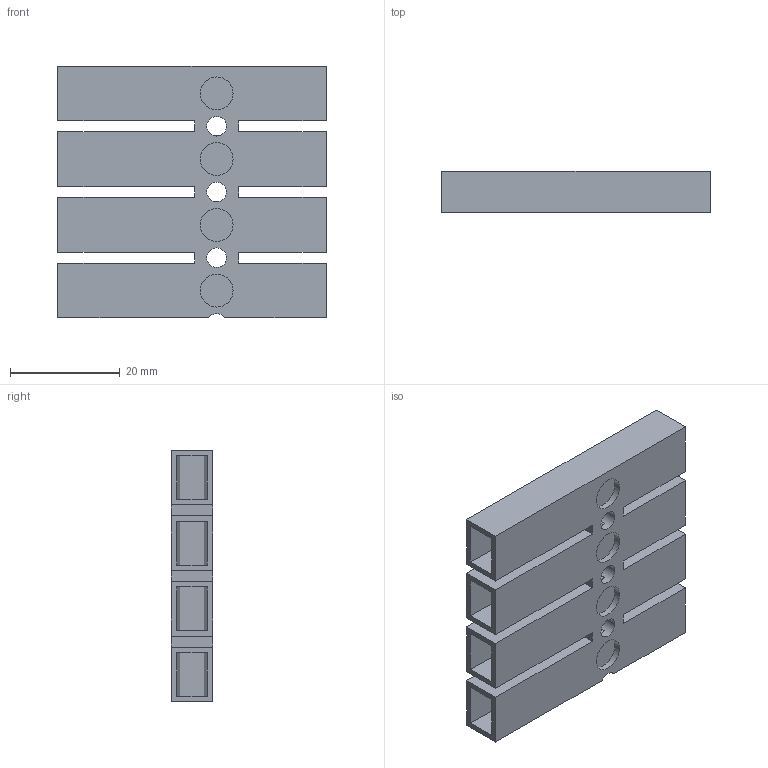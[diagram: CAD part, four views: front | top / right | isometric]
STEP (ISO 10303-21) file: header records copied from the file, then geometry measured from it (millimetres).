
FILE_DESCRIPTION (( 'STEP AP203' ), '1' );
FILE_NAME ('440-PA-04.STEP', '2019-01-29T01:21:37', ( '' ), ( '' ), 'SwSTEP 2.0', 'SolidWorks 2016', '' );
FILE_SCHEMA (( 'CONFIG_CONTROL_DESIGN' ));
Length unit declared in the file: millimetre
Products named in the file (1): 440-PA-04
Bounding box: 49 x 7.5 x 46 mm (x, y, z)
Volume: 8069.3 mm3; surface area: 11838.9 mm2
Topology: 1 solids, 1 shells, 127 faces, 318 edges, 212 vertices
Faces by surface type: plane 104, cylinder 23
Entity records: 3853 total; most frequent: CARTESIAN_POINT 658, ORIENTED_EDGE 636, DIRECTION 626, EDGE_CURVE 318, VECTOR 266, LINE 266, VERTEX_POINT 212, AXIS2_PLACEMENT_3D 180
